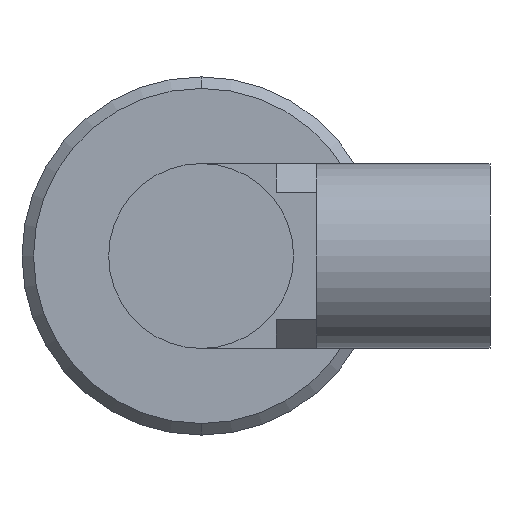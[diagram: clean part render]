
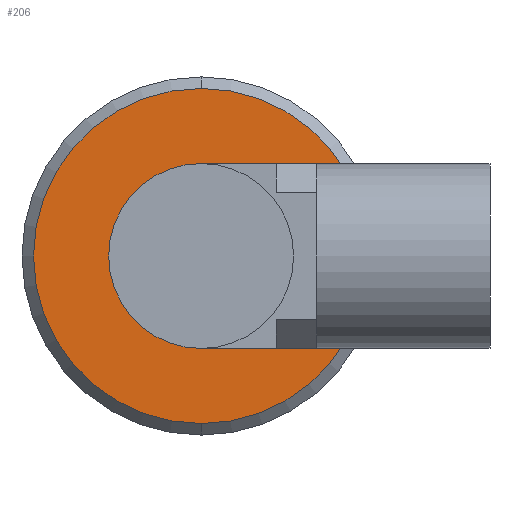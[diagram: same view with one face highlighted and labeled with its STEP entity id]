
A CAD part, left-side view. The second image highlights one B-rep face of the part: STEP entity #206.
In plain terms, the highlighted planar face has unit normal (-1, 0, 0).
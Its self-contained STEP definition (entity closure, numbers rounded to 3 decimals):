
#44 = DIRECTION ( 'NONE',  ( 0., 0., -1. ) ) ;
#48 = CARTESIAN_POINT ( 'NONE',  ( 61.5, 0., -8. ) ) ;
#62 = CIRCLE ( 'NONE', #1361, 8. ) ;
#101 = ORIENTED_EDGE ( 'NONE', *, *, #1460, .T. ) ;
#102 = FACE_BOUND ( 'NONE', #1367, .T. ) ;
#118 = CARTESIAN_POINT ( 'NONE',  ( 61.5, 0., 0. ) ) ;
#128 = ORIENTED_EDGE ( 'NONE', *, *, #735, .F. ) ;
#132 = CIRCLE ( 'NONE', #225, 8. ) ;
#206 = ADVANCED_FACE ( 'NONE', ( #102, #1511 ), #1124, .F. ) ;
#217 = ORIENTED_EDGE ( 'NONE', *, *, #605, .T. ) ;
#225 = AXIS2_PLACEMENT_3D ( 'NONE', #1379, #437, #418 ) ;
#261 = DIRECTION ( 'NONE',  ( 0., 0., 1. ) ) ;
#330 = CARTESIAN_POINT ( 'NONE',  ( 61.5, 0., 8. ) ) ;
#349 = ORIENTED_EDGE ( 'NONE', *, *, #1027, .F. ) ;
#392 = CARTESIAN_POINT ( 'NONE',  ( 61.5, 0., -14.5 ) ) ;
#418 = DIRECTION ( 'NONE',  ( 0., 0., 1. ) ) ;
#437 = DIRECTION ( 'NONE',  ( -1., 0., 0. ) ) ;
#471 = CIRCLE ( 'NONE', #1031, 14.5 ) ;
#603 = AXIS2_PLACEMENT_3D ( 'NONE', #786, #779, #1068 ) ;
#605 = EDGE_CURVE ( 'NONE', #1201, #918, #1746, .T. ) ;
#702 = DIRECTION ( 'NONE',  ( 0., 0., 1. ) ) ;
#718 = AXIS2_PLACEMENT_3D ( 'NONE', #1398, #1547, #44 ) ;
#735 = EDGE_CURVE ( 'NONE', #1177, #1179, #132, .T. ) ;
#779 = DIRECTION ( 'NONE',  ( -1., 0., 0. ) ) ;
#786 = CARTESIAN_POINT ( 'NONE',  ( 61.5, 0., 0. ) ) ;
#918 = VERTEX_POINT ( 'NONE', #392 ) ;
#1027 = EDGE_CURVE ( 'NONE', #1179, #1177, #62, .T. ) ;
#1031 = AXIS2_PLACEMENT_3D ( 'NONE', #118, #1081, #261 ) ;
#1068 = DIRECTION ( 'NONE',  ( 0., 0., 1. ) ) ;
#1081 = DIRECTION ( 'NONE',  ( -1., 0., 0. ) ) ;
#1124 = PLANE ( 'NONE',  #718 ) ;
#1177 = VERTEX_POINT ( 'NONE', #48 ) ;
#1179 = VERTEX_POINT ( 'NONE', #330 ) ;
#1201 = VERTEX_POINT ( 'NONE', #1698 ) ;
#1252 = CARTESIAN_POINT ( 'NONE',  ( 61.5, 0., 0. ) ) ;
#1361 = AXIS2_PLACEMENT_3D ( 'NONE', #1252, #1523, #702 ) ;
#1367 = EDGE_LOOP ( 'NONE', ( #349, #128 ) ) ;
#1379 = CARTESIAN_POINT ( 'NONE',  ( 61.5, 0., 0. ) ) ;
#1387 = EDGE_LOOP ( 'NONE', ( #101, #217 ) ) ;
#1398 = CARTESIAN_POINT ( 'NONE',  ( 61.5, 14.5, 0. ) ) ;
#1460 = EDGE_CURVE ( 'NONE', #918, #1201, #471, .T. ) ;
#1511 = FACE_OUTER_BOUND ( 'NONE', #1387, .T. ) ;
#1523 = DIRECTION ( 'NONE',  ( -1., 0., 0. ) ) ;
#1547 = DIRECTION ( 'NONE',  ( 1., 0., 0. ) ) ;
#1698 = CARTESIAN_POINT ( 'NONE',  ( 61.5, 0., 14.5 ) ) ;
#1746 = CIRCLE ( 'NONE', #603, 14.5 ) ;
